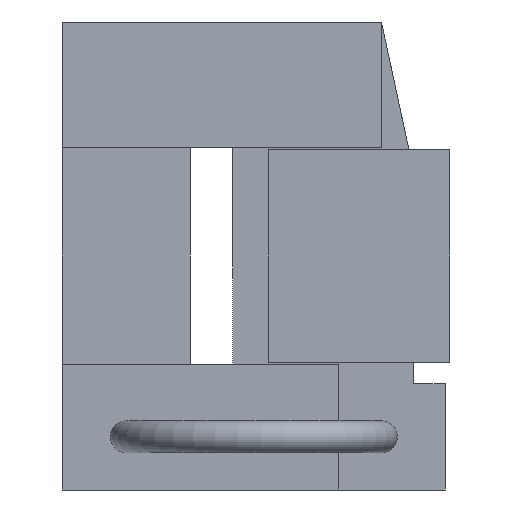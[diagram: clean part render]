
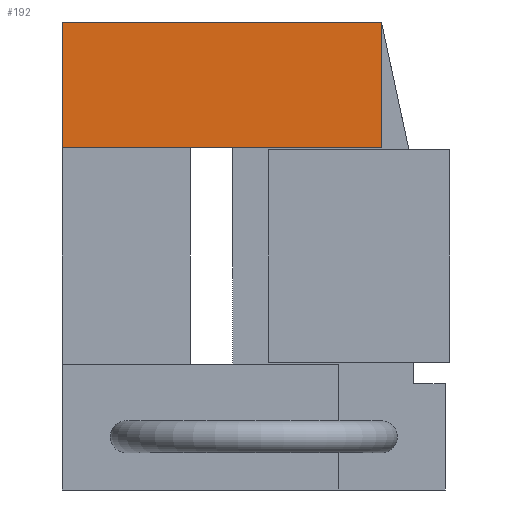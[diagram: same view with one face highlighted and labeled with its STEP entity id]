
A CAD part, left-side view. The second image highlights one B-rep face of the part: STEP entity #192.
In plain terms, the highlighted planar face has unit normal (-1, 0, 0).
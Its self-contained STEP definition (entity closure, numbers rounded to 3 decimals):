
#192 = ADVANCED_FACE( '', ( #427 ), #428, .F. );
#427 = FACE_OUTER_BOUND( '', #705, .T. );
#428 = PLANE( '', #706 );
#705 = EDGE_LOOP( '', ( #1232, #1233, #1234, #1235 ) );
#706 = AXIS2_PLACEMENT_3D( '', #1236, #1237, #1238 );
#1232 = ORIENTED_EDGE( '', *, *, #1826, .T. );
#1233 = ORIENTED_EDGE( '', *, *, #1701, .T. );
#1234 = ORIENTED_EDGE( '', *, *, #1689, .F. );
#1235 = ORIENTED_EDGE( '', *, *, #1710, .F. );
#1236 = CARTESIAN_POINT( '', ( -14.052, 0., 11. ) );
#1237 = DIRECTION( '', ( 1., 0., 0. ) );
#1238 = DIRECTION( '', ( 0., 0., -1. ) );
#1689 = EDGE_CURVE( '', #2051, #2052, #2053, .T. );
#1701 = EDGE_CURVE( '', #2073, #2052, #2074, .T. );
#1710 = EDGE_CURVE( '', #2087, #2051, #2089, .T. );
#1826 = EDGE_CURVE( '', #2087, #2073, #2266, .T. );
#2051 = VERTEX_POINT( '', #2568 );
#2052 = VERTEX_POINT( '', #2569 );
#2053 = LINE( '', #2570, #2571 );
#2073 = VERTEX_POINT( '', #2600 );
#2074 = LINE( '', #2601, #2602 );
#2087 = VERTEX_POINT( '', #2618 );
#2089 = LINE( '', #2621, #2622 );
#2266 = LINE( '', #2870, #2871 );
#2568 = CARTESIAN_POINT( '', ( -14.052, -15., 11. ) );
#2569 = CARTESIAN_POINT( '', ( -14.052, -15., 5.098 ) );
#2570 = CARTESIAN_POINT( '', ( -14.052, -15., 11. ) );
#2571 = VECTOR( '', #3109, 1000. );
#2600 = CARTESIAN_POINT( '', ( -14.052, 0., 5.098 ) );
#2601 = CARTESIAN_POINT( '', ( -14.052, 0., 5.098 ) );
#2602 = VECTOR( '', #3119, 1000. );
#2618 = CARTESIAN_POINT( '', ( -14.052, 0., 11. ) );
#2621 = CARTESIAN_POINT( '', ( -14.052, 0., 11. ) );
#2622 = VECTOR( '', #3130, 1000. );
#2870 = CARTESIAN_POINT( '', ( -14.052, 0., 11. ) );
#2871 = VECTOR( '', #3262, 1000. );
#3109 = DIRECTION( '', ( 0., 0., -1. ) );
#3119 = DIRECTION( '', ( 0., -1., 0. ) );
#3130 = DIRECTION( '', ( 0., -1., 0. ) );
#3262 = DIRECTION( '', ( 0., 0., -1. ) );
